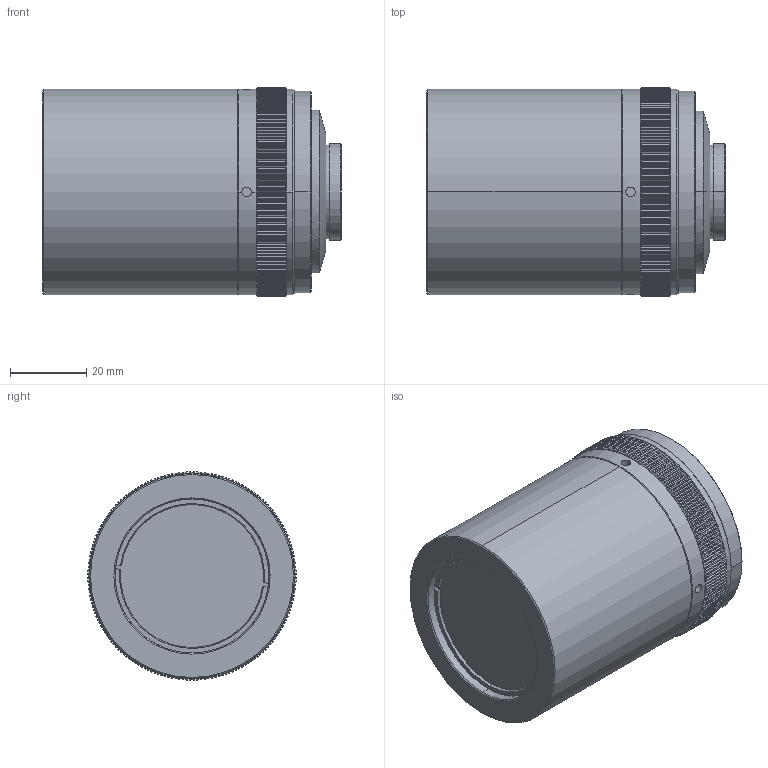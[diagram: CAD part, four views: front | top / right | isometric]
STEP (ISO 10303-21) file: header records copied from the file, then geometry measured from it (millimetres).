
FILE_DESCRIPTION (( 'STEP AP203' ), '1' );
FILE_NAME ('LASER-75V2.STEP', '2022-11-21T05:37:11', ( '' ), ( '' ), 'SwSTEP 2.0', 'SolidWorks 2017', '' );
FILE_SCHEMA (( 'CONFIG_CONTROL_DESIGN' ));
Length unit declared in the file: millimetre
Products named in the file (1): LASER-75V2
Bounding box: 78.48 x 54.8 x 54.8 mm (x, y, z)
Volume: 163431.2 mm3; surface area: 19019.8 mm2
Topology: 1 solids, 2 shells, 980 faces, 2156 edges, 1191 vertices
Faces by surface type: plane 383, cone 380, cylinder 214, bspline 3
Entity records: 27626 total; most frequent: CARTESIAN_POINT 7277, ORIENTED_EDGE 4312, DIRECTION 4142, EDGE_CURVE 2156, AXIS2_PLACEMENT_3D 1768, VERTEX_POINT 1191, EDGE_LOOP 991, ADVANCED_FACE 980
